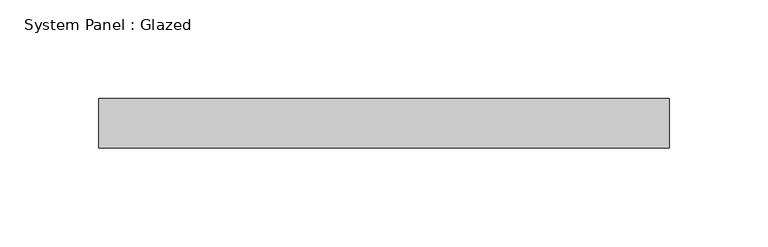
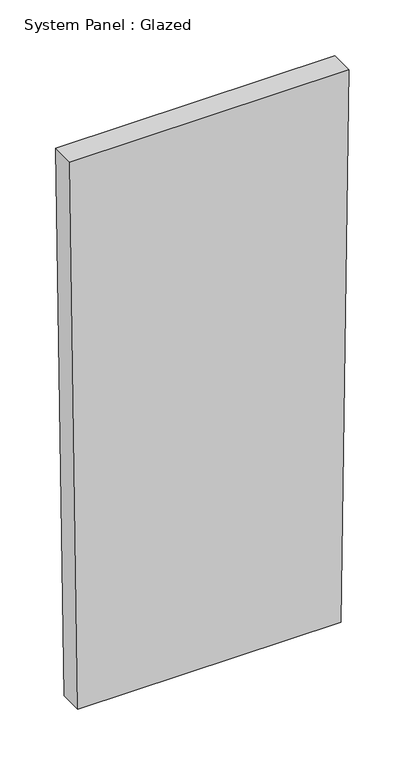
"""IFC4 building model written with IfcOpenShell, lengths in millimetres: plate geometry, System Panel : Glazed."""

from ifc_helpers import new_model, si_unit, frame, origin, place, context, project, spatial, polyline, outline, extrude, source, transform, mapped, element, save


def system_panel_glazed_9578890f(model_context):
    return source(origin(), model_context, "Body", "SweptSolid", [
        extrude(outline(polyline([(0.0, -135.9188875), (0.0, 135.9188875), (599.9420273, 144.2593845), (599.9420273, -144.2593845), (0.0, -135.9188875)])), frame((0.0, 24.5, 0.0), z_axis=(0.0, 1.0, 0.0), x_axis=(0.0, 0.0, 1.0)), (0.0, 0.0, 1.0), 25.0),
    ])


if __name__ == "__main__":
    model = new_model("IFC4")
    model_context = context("Model", 3, world=origin())
    ifc_project = project(units=[si_unit("LENGTHUNIT", "METRE", prefix="MILLI")], contexts=[model_context])
    site = spatial("IfcSite", under=ifc_project)
    building = spatial("IfcBuilding", under=site)
    placement = place(None, origin())
    system_panel_glazed_shape = system_panel_glazed_9578890f(model_context)
    element("IfcPlate", 1, ObjectType="System Panel : Glazed", at=placement, inside=building, context=model_context, shape_type="MappedRepresentation", body=[
        mapped(system_panel_glazed_shape, transform((0.0, 0.0, 0.0), x_axis=(1.0, 0.0, 0.0), y_axis=(0.0, 1.0, 0.0), z_axis=(0.0, 0.0, 1.0))),
    ])
    save(model, "model.ifc")
